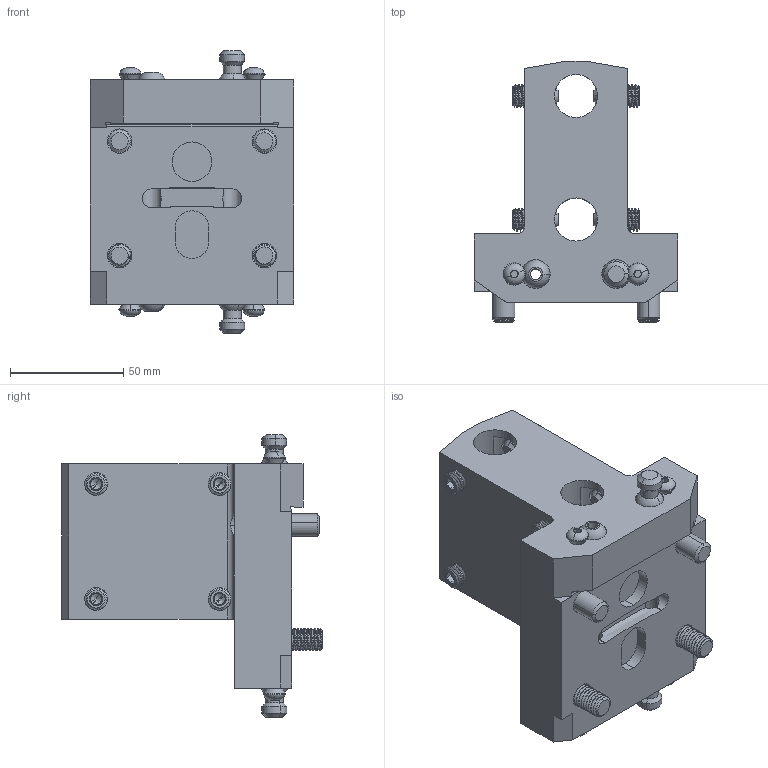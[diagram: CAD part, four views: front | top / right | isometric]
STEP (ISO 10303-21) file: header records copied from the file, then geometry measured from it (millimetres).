
FILE_DESCRIPTION (( 'STEP AP203' ), '1' );
FILE_NAME ('04-0797.STEP', '2022-07-12T16:27:47', ( '' ), ( '' ), 'SwSTEP 2.0', 'SolidWorks 2021', '' );
FILE_SCHEMA (( 'CONFIG_CONTROL_DESIGN' ));
Length unit declared in the file: inch
Products named in the file (11): 40-0011_40-0011; 04-0797; 20-3137; 22-8749; 20-2077; 40-0230_40-0230; 40-0003_40-0003; 57-0026; 44-0034_44-0034; 20-10454A; 10000015542
Assembly tree (30 placements, depth 3):
  04-0797
    10000015542
      20-10454A
      57-0026  x4
      22-8749  x4
      20-3137  x2
      44-0034_44-0034  x8
      40-0011_40-0011  x2
      40-0230_40-0230  x2
      40-0003_40-0003  x4
      20-2077  x2
Bounding box: 89.92 x 115.25 x 124.8 mm (x, y, z)
Volume: 391307.8 mm3; surface area: 88546.1 mm2
Topology: 29 solids, 31 shells, 1406 faces, 3753 edges, 2388 vertices
Faces by surface type: cylinder 851, plane 266, cone 224, bspline 28, torus 25, sphere 12
Entity records: 21201 total; most frequent: CARTESIAN_POINT 8662, ORIENTED_EDGE 2458, DIRECTION 2143, EDGE_CURVE 1229, AXIS2_PLACEMENT_3D 838, VERTEX_POINT 790, EDGE_LOOP 515, LINE 467
